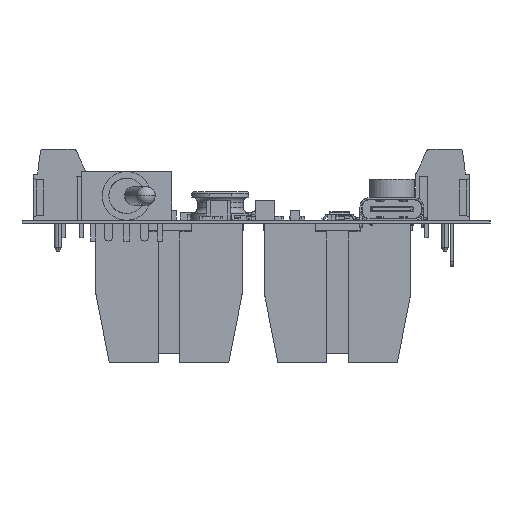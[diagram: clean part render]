
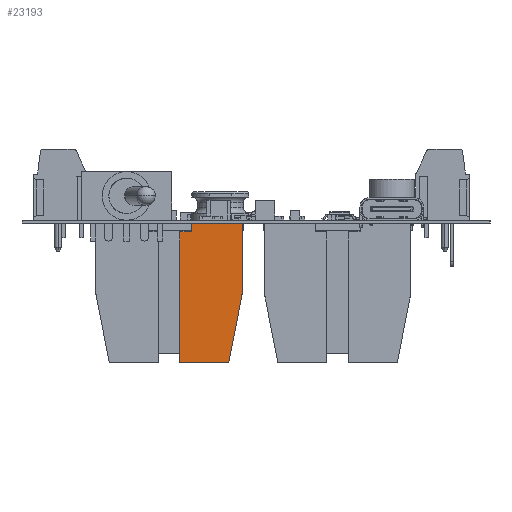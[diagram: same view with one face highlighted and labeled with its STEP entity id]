
A CAD part, left-side view. The second image highlights one B-rep face of the part: STEP entity #23193.
In plain terms, the highlighted free-form (B-spline) face has degree [1, 1] with [2, 2] control points.
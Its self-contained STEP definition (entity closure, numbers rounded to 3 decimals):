
#22783 = VERTEX_POINT('',#22784);
#22784 = CARTESIAN_POINT('',(34.191,34.881,
    -0.317));
#22791 = EDGE_CURVE('',#22783,#22792,#22794,.T.);
#22792 = VERTEX_POINT('',#22793);
#22793 = CARTESIAN_POINT('',(34.191,42.031,
    -0.317));
#22794 = B_SPLINE_CURVE_WITH_KNOTS('',1,(#22795,#22796),.UNSPECIFIED.,
  .F.,.F.,(2,2),(0.,7.15),
  .PIECEWISE_BEZIER_KNOTS.);
#22795 = CARTESIAN_POINT('',(34.191,34.881,
    -0.317));
#22796 = CARTESIAN_POINT('',(34.191,42.031,
    -0.317));
#22925 = EDGE_CURVE('',#22926,#22783,#22928,.T.);
#22926 = VERTEX_POINT('',#22927);
#22927 = CARTESIAN_POINT('',(34.191,34.881,
    -10.235));
#22928 = B_SPLINE_CURVE_WITH_KNOTS('',1,(#22929,#22930),.UNSPECIFIED.,
  .F.,.F.,(2,2),(0.,7.457),
  .PIECEWISE_BEZIER_KNOTS.);
#22929 = CARTESIAN_POINT('',(34.191,34.881,
    -10.235));
#22930 = CARTESIAN_POINT('',(34.191,34.881,
    -0.317));
#23170 = EDGE_CURVE('',#23171,#22792,#23173,.T.);
#23171 = VERTEX_POINT('',#23172);
#23172 = CARTESIAN_POINT('',(34.191,42.031,
    -1.647));
#23173 = B_SPLINE_CURVE_WITH_KNOTS('',1,(#23174,#23175),.UNSPECIFIED.,
  .F.,.F.,(2,2),(0.,1.),
  .PIECEWISE_BEZIER_KNOTS.);
#23174 = CARTESIAN_POINT('',(34.191,42.031,
    -1.647));
#23175 = CARTESIAN_POINT('',(34.191,42.031,
    -0.317));
#23193 = ADVANCED_FACE('',(#23194),#23225,.T.);
#23194 = FACE_BOUND('',#23195,.T.);
#23195 = EDGE_LOOP('',(#23196,#23197,#23204,#23211,#23218,#23223,#23224)
  );
#23196 = ORIENTED_EDGE('',*,*,#23170,.F.);
#23197 = ORIENTED_EDGE('',*,*,#23198,.F.);
#23198 = EDGE_CURVE('',#23199,#23171,#23201,.T.);
#23199 = VERTEX_POINT('',#23200);
#23200 = CARTESIAN_POINT('',(34.191,43.706,
    -1.647));
#23201 = B_SPLINE_CURVE_WITH_KNOTS('',1,(#23202,#23203),.UNSPECIFIED.,
  .F.,.F.,(2,2),(-1.675,0.),
  .PIECEWISE_BEZIER_KNOTS.);
#23202 = CARTESIAN_POINT('',(34.191,43.706,
    -1.647));
#23203 = CARTESIAN_POINT('',(34.191,42.031,
    -1.647));
#23204 = ORIENTED_EDGE('',*,*,#23205,.F.);
#23205 = EDGE_CURVE('',#23206,#23199,#23208,.T.);
#23206 = VERTEX_POINT('',#23207);
#23207 = CARTESIAN_POINT('',(34.191,43.706,
    -20.081));
#23208 = B_SPLINE_CURVE_WITH_KNOTS('',1,(#23209,#23210),.UNSPECIFIED.,
  .F.,.F.,(2,2),(-14.86,-1.),
  .PIECEWISE_BEZIER_KNOTS.);
#23209 = CARTESIAN_POINT('',(34.191,43.706,
    -20.081));
#23210 = CARTESIAN_POINT('',(34.191,43.706,
    -1.647));
#23211 = ORIENTED_EDGE('',*,*,#23212,.T.);
#23212 = EDGE_CURVE('',#23206,#23213,#23215,.T.);
#23213 = VERTEX_POINT('',#23214);
#23214 = CARTESIAN_POINT('',(34.191,36.797,
    -20.081));
#23215 = B_SPLINE_CURVE_WITH_KNOTS('',1,(#23216,#23217),.UNSPECIFIED.,
  .F.,.F.,(2,2),(9.909,16.818),
  .PIECEWISE_BEZIER_KNOTS.);
#23216 = CARTESIAN_POINT('',(34.191,43.706,
    -20.081));
#23217 = CARTESIAN_POINT('',(34.191,36.797,
    -20.081));
#23218 = ORIENTED_EDGE('',*,*,#23219,.T.);
#23219 = EDGE_CURVE('',#23213,#22926,#23220,.T.);
#23220 = B_SPLINE_CURVE_WITH_KNOTS('',1,(#23221,#23222),.UNSPECIFIED.,
  .F.,.F.,(2,2),(0.,7.647),
  .PIECEWISE_BEZIER_KNOTS.);
#23221 = CARTESIAN_POINT('',(34.191,36.797,
    -20.081));
#23222 = CARTESIAN_POINT('',(34.191,34.881,
    -10.235));
#23223 = ORIENTED_EDGE('',*,*,#22925,.T.);
#23224 = ORIENTED_EDGE('',*,*,#22791,.T.);
#23225 = B_SPLINE_SURFACE_WITH_KNOTS('',1,1,(
    (#23226,#23227)
    ,(#23228,#23229
    )),.UNSPECIFIED.,.F.,.F.,.F.,(2,2),(2,2),(0.,
    14.86),(1.5,10.325),.PIECEWISE_BEZIER_KNOTS.);
#23226 = CARTESIAN_POINT('',(34.191,43.706,
    -0.317));
#23227 = CARTESIAN_POINT('',(34.191,34.881,
    -0.317));
#23228 = CARTESIAN_POINT('',(34.191,43.706,
    -20.081));
#23229 = CARTESIAN_POINT('',(34.191,34.881,
    -20.081));
